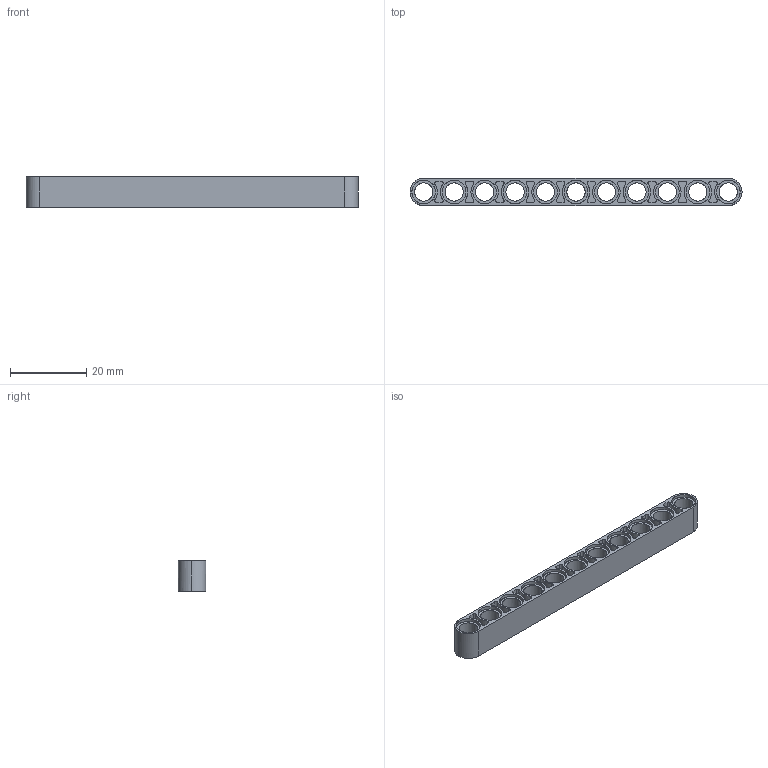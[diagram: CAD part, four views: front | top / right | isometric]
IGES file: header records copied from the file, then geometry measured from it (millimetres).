
Start section: C
Global section: file name: Ye_6028107_AVV.iges; native system: By Siemens PLM Incorporated; preprocessor: XPlus GENERIC/IGES 26.1.183; author: Author; organization: Title; date: 20250722.001109; units: millimetre
Bounding box: 87.2 x 7.2 x 8 mm (x, y, z)
Surface area: 4654.1 mm2 (no closed solid volume)
Topology: 0 solids, 0 shells, 303 faces, 1686 edges, 1686 vertices
Faces by surface type: bspline 303
